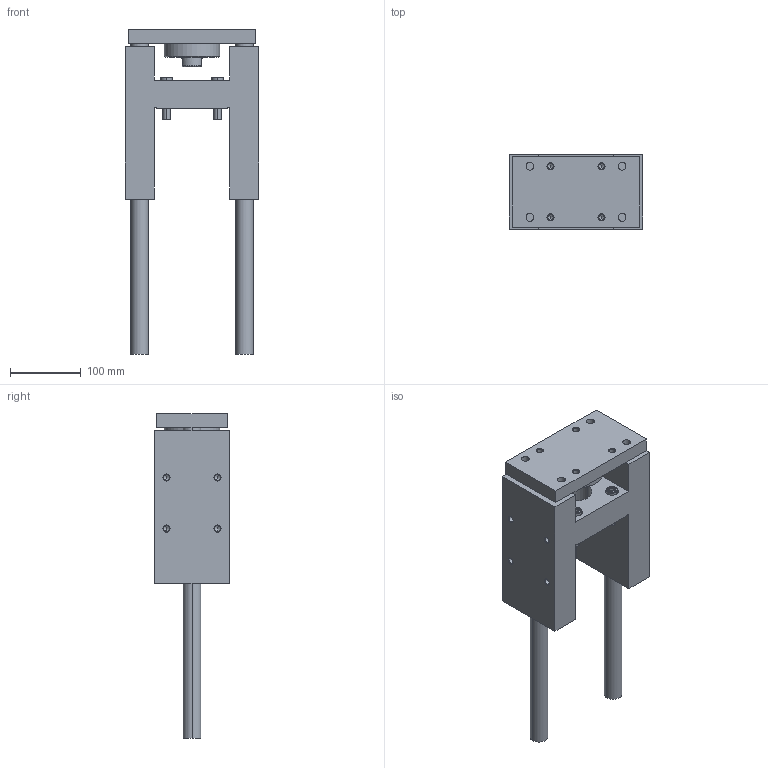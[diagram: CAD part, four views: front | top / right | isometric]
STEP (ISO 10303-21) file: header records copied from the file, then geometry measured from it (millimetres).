
FILE_DESCRIPTION (( 'STEP AP203' ), '1' );
FILE_NAME ('GB80-200.STEP', '2020-04-24T13:36:45', ( '' ), ( '' ), 'SwSTEP 2.0', 'SolidWorks 2019', '' );
FILE_SCHEMA (( 'CONFIG_CONTROL_DESIGN' ));
Length unit declared in the file: millimetre
Products named in the file (1): GB80-200
Bounding box: 189 x 105 x 458 mm (x, y, z)
Volume: 2892785 mm3; surface area: 351087.5 mm2
Topology: 6 solids, 6 shells, 329 faces, 728 edges, 412 vertices
Faces by surface type: cone 134, cylinder 98, plane 97
Entity records: 9631 total; most frequent: CARTESIAN_POINT 2242, DIRECTION 1662, ORIENTED_EDGE 1392, EDGE_CURVE 696, AXIS2_PLACEMENT_3D 664, VERTEX_POINT 412, EDGE_LOOP 392, CIRCLE 334
